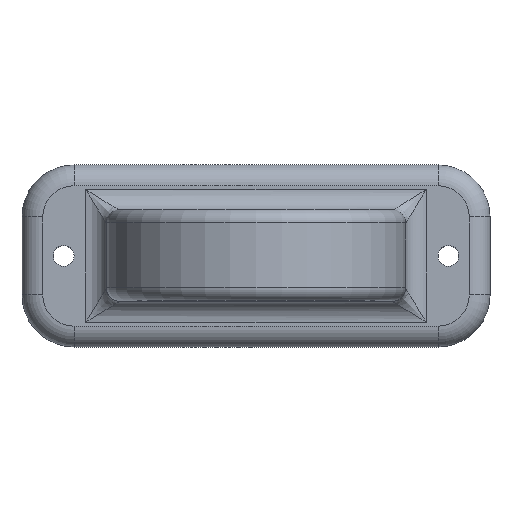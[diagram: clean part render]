
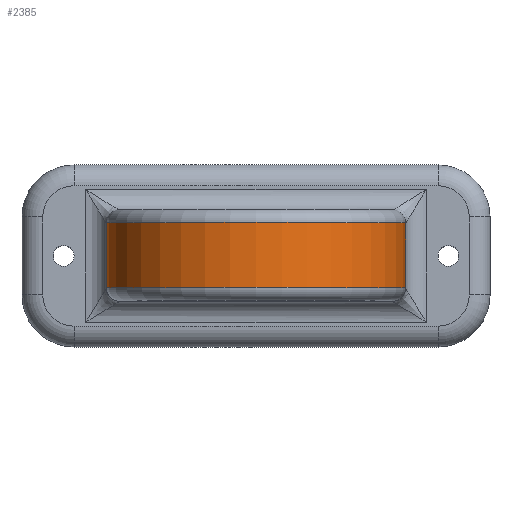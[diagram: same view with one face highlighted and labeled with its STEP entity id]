
A CAD part, top view. The second image highlights one B-rep face of the part: STEP entity #2385.
In plain terms, the highlighted cylindrical face has radius 57.5 mm (diameter 115 mm), a partial arc.
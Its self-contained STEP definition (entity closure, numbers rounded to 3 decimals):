
#741 = VERTEX_POINT('',#742);
#742 = CARTESIAN_POINT('',(57.25,81.25,50.));
#811 = VERTEX_POINT('',#812);
#812 = CARTESIAN_POINT('',(-57.75,81.25,50.));
#821 = EDGE_CURVE('',#811,#741,#822,.T.);
#822 = CIRCLE('',#823,57.5);
#823 = AXIS2_PLACEMENT_3D('',#824,#825,#826);
#824 = CARTESIAN_POINT('',(-0.25,81.25,50.));
#825 = DIRECTION('',(0.,1.,0.));
#826 = DIRECTION('',(-1.,0.,0.));
#2199 = VERTEX_POINT('',#2200);
#2200 = CARTESIAN_POINT('',(57.25,106.25,50.));
#2206 = EDGE_CURVE('',#2199,#741,#2207,.T.);
#2207 = LINE('',#2208,#2209);
#2208 = CARTESIAN_POINT('',(57.25,111.25,50.));
#2209 = VECTOR('',#2210,1.);
#2210 = DIRECTION('',(0.,-1.,0.));
#2280 = EDGE_CURVE('',#2281,#811,#2283,.T.);
#2281 = VERTEX_POINT('',#2282);
#2282 = CARTESIAN_POINT('',(-57.75,106.25,50.));
#2283 = LINE('',#2284,#2285);
#2284 = CARTESIAN_POINT('',(-57.75,111.25,50.));
#2285 = VECTOR('',#2286,1.);
#2286 = DIRECTION('',(0.,-1.,0.));
#2385 = ADVANCED_FACE('',(#2386),#2398,.T.);
#2386 = FACE_BOUND('',#2387,.T.);
#2387 = EDGE_LOOP('',(#2388,#2389,#2396,#2397));
#2388 = ORIENTED_EDGE('',*,*,#2206,.F.);
#2389 = ORIENTED_EDGE('',*,*,#2390,.F.);
#2390 = EDGE_CURVE('',#2281,#2199,#2391,.T.);
#2391 = CIRCLE('',#2392,57.5);
#2392 = AXIS2_PLACEMENT_3D('',#2393,#2394,#2395);
#2393 = CARTESIAN_POINT('',(-0.25,106.25,50.));
#2394 = DIRECTION('',(0.,1.,0.));
#2395 = DIRECTION('',(-1.,0.,0.));
#2396 = ORIENTED_EDGE('',*,*,#2280,.T.);
#2397 = ORIENTED_EDGE('',*,*,#821,.T.);
#2398 = CYLINDRICAL_SURFACE('',#2399,57.5);
#2399 = AXIS2_PLACEMENT_3D('',#2400,#2401,#2402);
#2400 = CARTESIAN_POINT('',(-0.25,111.25,50.));
#2401 = DIRECTION('',(0.,1.,0.));
#2402 = DIRECTION('',(-1.,0.,0.));
